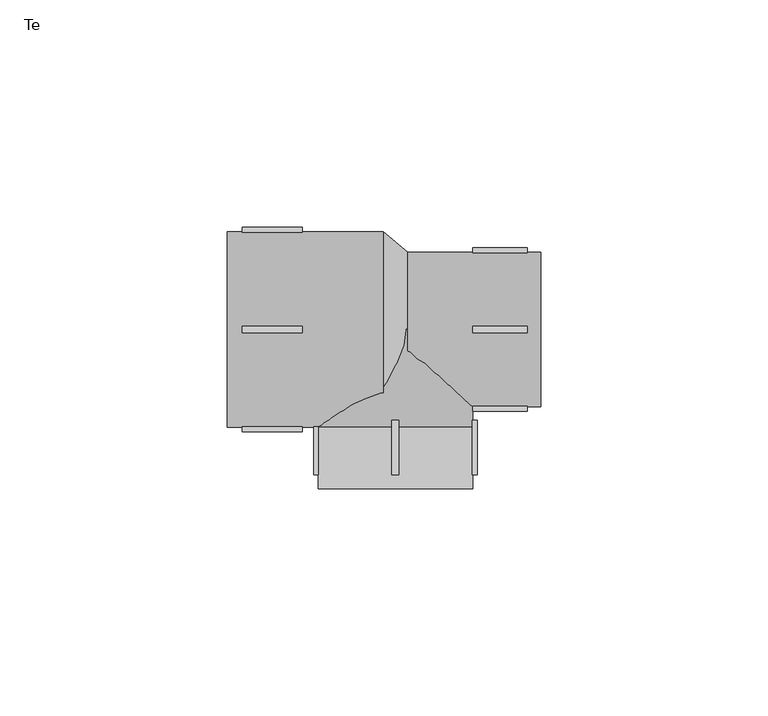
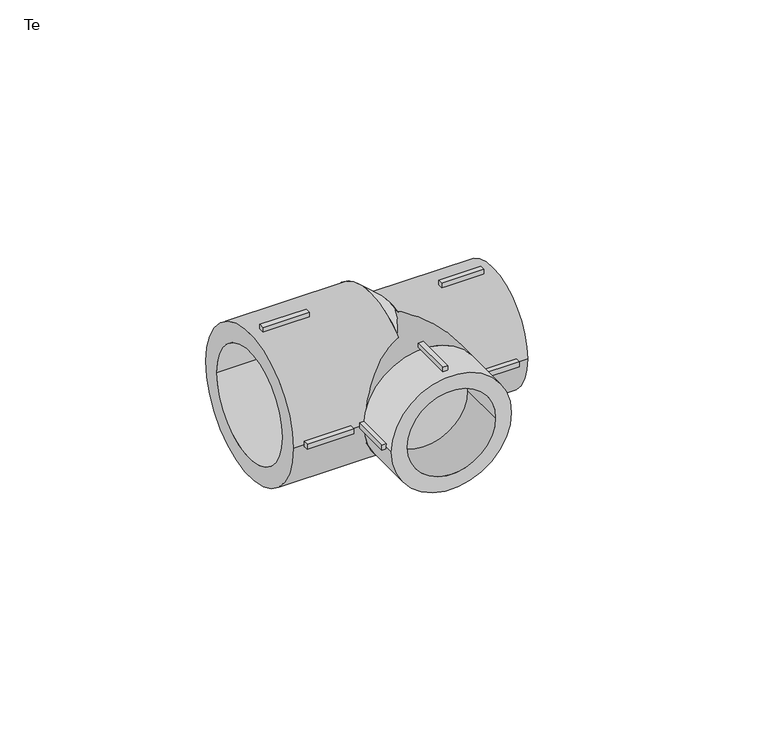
"""IFC4 building model written with IfcOpenShell, lengths in millimetres: pipe fitting geometry, EGB_VASEN_ PPR_Te WXR300_Te reducida WXR310 : Te."""

from ifc_helpers import new_model, si_unit, point, frame, origin, origin_2d, place, context, project, spatial, polyline, circle_curve, trimmed, segment, composite_curve, outline, extrude, source, transform, mapped, element, save
from ifc_brep_helpers import plane_surface, revolved_surface, advanced_brep


def te_540497d2(model_context):
    return source(origin(), model_context, "Body", "SolidModel", [
        extrude(outline(polyline([(-0.75, -20.0), (0.75, -20.0), (0.75, -32.0), (-0.75, -32.0), (-0.75, -20.0)])), frame((0.0, 0.0, 16.0), z_axis=(0.0, 0.0, 1.0), x_axis=(1.0, 0.0, 0.0)), (0.0, 0.0, 1.0), 2.0),
        extrude(outline(polyline([(-0.75, -20.0), (0.75, -20.0), (0.75, -32.0), (-0.75, -32.0), (-0.75, -20.0)])), frame((0.0, 0.0, -18.0), z_axis=(0.0, 0.0, 1.0), x_axis=(1.0, 0.0, 0.0)), (0.0, 0.0, 1.0), 2.0),
        extrude(outline(polyline([(16.0, -20.0), (18.0, -20.0), (18.0, -32.0), (16.0, -32.0), (16.0, -20.0)])), frame((0.0, 0.0, -0.75), z_axis=(0.0, 0.0, 1.0), x_axis=(1.0, 0.0, 0.0)), (0.0, 0.0, 1.0), 1.5),
        extrude(outline(polyline([(-18.0, -20.0), (-16.0, -20.0), (-16.0, -32.0), (-18.0, -32.0), (-18.0, -20.0)])), frame((0.0, 0.0, -0.75), z_axis=(0.0, 0.0, 1.0), x_axis=(1.0, 0.0, 0.0)), (0.0, 0.0, 1.0), 1.5),
        extrude(outline(polyline([(17.0, -0.75), (17.0, 0.75), (29.0, 0.75), (29.0, -0.75), (17.0, -0.75)])), frame((0.0, 0.0, 16.0), z_axis=(0.0, 0.0, 1.0), x_axis=(1.0, 0.0, 0.0)), (0.0, 0.0, 1.0), 2.0),
        extrude(outline(polyline([(17.0, -0.75), (17.0, 0.75), (29.0, 0.75), (29.0, -0.75), (17.0, -0.75)])), frame((0.0, 0.0, -18.0), z_axis=(0.0, 0.0, 1.0), x_axis=(1.0, 0.0, 0.0)), (0.0, 0.0, 1.0), 2.0),
        extrude(outline(polyline([(17.0, 16.0), (17.0, 18.0), (29.0, 18.0), (29.0, 16.0), (17.0, 16.0)])), frame((0.0, 0.0, -0.75), z_axis=(0.0, 0.0, 1.0), x_axis=(1.0, 0.0, 0.0)), (0.0, 0.0, 1.0), 1.5),
        extrude(outline(polyline([(17.0, -18.0), (17.0, -16.0), (29.0, -16.0), (29.0, -18.0), (17.0, -18.0)])), frame((0.0, 0.0, -0.75), z_axis=(0.0, 0.0, 1.0), x_axis=(1.0, 0.0, 0.0)), (0.0, 0.0, 1.0), 1.5),
        extrude(outline(polyline([(-20.5, 0.75), (-20.5, -0.75), (-33.7, -0.75), (-33.7, 0.75), (-20.5, 0.75)])), frame((0.0, 0.0, 20.5), z_axis=(0.0, 0.0, 1.0), x_axis=(1.0, 0.0, 0.0)), (0.0, 0.0, 1.0), 2.0),
        extrude(outline(polyline([(-20.5, 0.75), (-20.5, -0.75), (-33.7, -0.75), (-33.7, 0.75), (-20.5, 0.75)])), frame((0.0, 0.0, -22.5), z_axis=(0.0, 0.0, 1.0), x_axis=(1.0, 0.0, 0.0)), (0.0, 0.0, 1.0), 2.0),
        extrude(outline(polyline([(-20.5, 22.5), (-20.5, 20.5), (-33.7, 20.5), (-33.7, 22.5), (-20.5, 22.5)])), frame((0.0, 0.0, -0.75), z_axis=(0.0, 0.0, 1.0), x_axis=(1.0, 0.0, 0.0)), (0.0, 0.0, 1.0), 1.5),
        extrude(outline(polyline([(-20.5, -20.5), (-20.5, -22.5), (-33.7, -22.5), (-33.7, -20.5), (-20.5, -20.5)])), frame((0.0, 0.0, -0.75), z_axis=(0.0, 0.0, 1.0), x_axis=(1.0, 0.0, 0.0)), (0.0, 0.0, 1.0), 1.5),
        extrude(outline(composite_curve([segment(trimmed(circle_curve(origin_2d(), 17.0), [point((0.0, 17.0))], [point((0.0, -17.0))], False, "CARTESIAN"), True, "CONTINUOUS"), segment(trimmed(circle_curve(origin_2d(), 17.0), [point((0.0, -17.0))], [point((0.0, 17.0))], False, "CARTESIAN"), True, "CONTINUOUS")], self_intersect=False), holes=[composite_curve([segment(trimmed(circle_curve(origin_2d(), 12.5), [point((0.0, 12.5))], [point((0.0, -12.5))], True, "CARTESIAN"), True, "CONTINUOUS"), segment(trimmed(circle_curve(origin_2d(), 12.5), [point((0.0, -12.5))], [point((0.0, 12.5))], True, "CARTESIAN"), True, "CONTINUOUS")], self_intersect=False)]), frame((0.0, -35.0, 0.0), z_axis=(0.0, 1.0, 0.0), x_axis=(0.0, 0.0, 1.0)), (0.0, 0.0, 1.0), 13.5),
        extrude(outline(composite_curve([segment(trimmed(circle_curve(origin_2d(), 17.0), [point((-17.0, 0.0))], [point((17.0, 0.0))], False, "CARTESIAN"), True, "CONTINUOUS"), segment(trimmed(circle_curve(origin_2d(), 17.0), [point((17.0, 0.0))], [point((-17.0, 0.0))], False, "CARTESIAN"), True, "CONTINUOUS")], self_intersect=False), holes=[composite_curve([segment(trimmed(circle_curve(origin_2d(), 12.5), [point((-12.5, 0.0))], [point((12.5, 0.0))], True, "CARTESIAN"), True, "CONTINUOUS"), segment(trimmed(circle_curve(origin_2d(), 12.5), [point((12.5, 0.0))], [point((-12.5, 0.0))], True, "CARTESIAN"), True, "CONTINUOUS")], self_intersect=False)]), frame((2.68, 0.0, 0.0), z_axis=(1.0, 0.0, 0.0), x_axis=(0.0, 1.0, 0.0)), (0.0, 0.0, 1.0), 29.32),
        extrude(outline(composite_curve([segment(trimmed(circle_curve(origin_2d(), 21.5), [point((-21.5, 0.0))], [point((21.5, 0.0))], False, "CARTESIAN"), True, "CONTINUOUS"), segment(trimmed(circle_curve(origin_2d(), 21.5), [point((21.5, 0.0))], [point((-21.5, 0.0))], False, "CARTESIAN"), True, "CONTINUOUS")], self_intersect=False), holes=[composite_curve([segment(trimmed(circle_curve(origin_2d(), 16.0), [point((-16.0, 0.0))], [point((16.0, 0.0))], True, "CARTESIAN"), True, "CONTINUOUS"), segment(trimmed(circle_curve(origin_2d(), 16.0), [point((16.0, 0.0))], [point((-16.0, 0.0))], True, "CARTESIAN"), True, "CONTINUOUS")], self_intersect=False)]), frame((-37.0, 0.0, 0.0), z_axis=(1.0, 0.0, 0.0), x_axis=(0.0, 1.0, 0.0)), (0.0, 0.0, 1.0), 34.32),
        extrude(outline(composite_curve([segment(trimmed(circle_curve(origin_2d(), 17.0), [point((0.0, 17.0))], [point((0.0, -17.0))], False, "CARTESIAN"), True, "CONTINUOUS"), segment(trimmed(circle_curve(origin_2d(), 17.0), [point((0.0, -17.0))], [point((0.0, 17.0))], False, "CARTESIAN"), True, "CONTINUOUS")], self_intersect=False)), frame((0.0, -21.5, 0.0), z_axis=(0.0, 1.0, 0.0), x_axis=(0.0, 0.0, 1.0)), (0.0, 0.0, 1.0), 21.5),
        advanced_brep(
        [(2.68, -17.0, 0.0), (2.68, 17.0, 0.0), (-2.68, -21.5, 0.0), (-2.68, 21.5, 0.0)],
        [
            (0, 1, circle_curve(frame((2.68, 0.0, 0.0), z_axis=(1.0, 0.0, 0.0), x_axis=(0.0, -1.0, 0.0)), 17.0)),
            (1, 0, circle_curve(frame((2.68, 0.0, 0.0), z_axis=(1.0, 0.0, 0.0), x_axis=(0.0, 1.0, 0.0)), 17.0)),
            (2, 3, circle_curve(frame((-2.68, 0.0, 0.0), z_axis=(-1.0, 0.0, 0.0), x_axis=(0.0, 1.0, 0.0)), 21.5)),
            (3, 2, circle_curve(frame((-2.68, 0.0, 0.0), z_axis=(-1.0, 0.0, 0.0), x_axis=(0.0, -1.0, 0.0)), 21.5)),
            (3, 1),
            (0, 2),
        ],
        [
            plane_surface(frame((2.68, 0.0, 0.0), z_axis=(1.0, 0.0, 0.0), x_axis=(0.0, 0.0, -1.0))),
            plane_surface(frame((-2.68, 0.0, 0.0), z_axis=(-1.0, 0.0, 0.0), x_axis=(0.0, 0.0, -1.0))),
            revolved_surface(polyline([(2.6799999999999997, -17.000000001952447, 0.0), (-2.6799999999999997, -21.5, 0.0)]), (22.9288889, 0.0, 0.0), (-1.0, 0.0, 0.0)),
            revolved_surface(polyline([(2.6799999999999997, 17.000000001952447, 0.0), (-2.6799999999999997, 21.5, 0.0)]), (22.9288889, 0.0, 0.0), (-1.0, 0.0, 0.0)),
        ],
        [
            (0, [[1, 2]]),
            (1, [[3, 4]]),
            (2, [[-4, 5, -1, 6]]),
            (3, [[-3, -6, -2, -5]]),
        ],
    ),
    ])


if __name__ == "__main__":
    model = new_model("IFC4")
    model_context = context("Model", 3, world=origin())
    ifc_project = project(units=[si_unit("LENGTHUNIT", "METRE", prefix="MILLI")], contexts=[model_context])
    site = spatial("IfcSite", under=ifc_project)
    building = spatial("IfcBuilding", under=site)
    placement = place(None, origin())
    te_shape = te_540497d2(model_context)
    element("IfcPipeFitting", 1, ObjectType="EGB_VASEN_ PPR_Te WXR300_Te reducida WXR310 : Te", at=placement, inside=building, context=model_context, shape_type="MappedRepresentation", body=[
        mapped(te_shape, transform((0.0, 0.0, 0.0), x_axis=(1.0, 0.0, 0.0), y_axis=(0.0, 1.0, 0.0), z_axis=(0.0, 0.0, 1.0))),
    ])
    save(model, "model.ifc")
